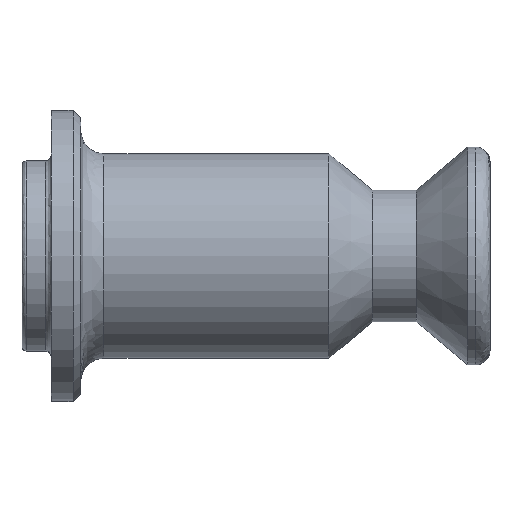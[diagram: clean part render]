
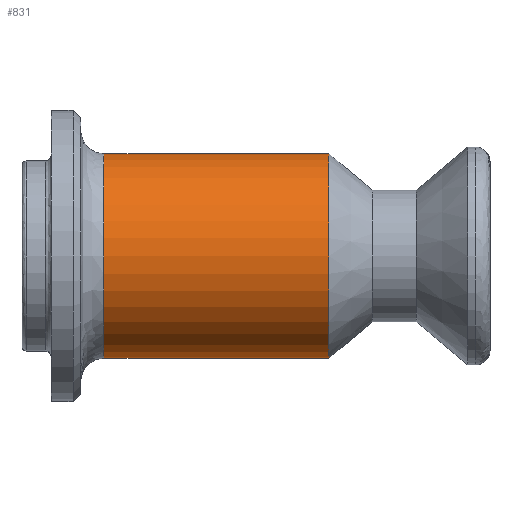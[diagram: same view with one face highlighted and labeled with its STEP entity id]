
A CAD part, left-side view. The second image highlights one B-rep face of the part: STEP entity #831.
In plain terms, the highlighted cylindrical face has radius 3.5 mm (diameter 7 mm), a partial arc.
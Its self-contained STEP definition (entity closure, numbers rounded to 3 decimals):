
#6 = EDGE_CURVE ( 'NONE', #828, #838, #842, .T. ) ;
#21 = EDGE_CURVE ( 'NONE', #230, #828, #1443, .T. ) ;
#83 = CARTESIAN_POINT ( 'NONE',  ( 0., 5.51, 3.5 ) ) ;
#100 = ORIENTED_EDGE ( 'NONE', *, *, #6, .T. ) ;
#168 = CARTESIAN_POINT ( 'NONE',  ( 0., 5.51, -3.5 ) ) ;
#197 = ORIENTED_EDGE ( 'NONE', *, *, #1105, .T. ) ;
#230 = VERTEX_POINT ( 'NONE', #1341 ) ;
#236 = CARTESIAN_POINT ( 'NONE',  ( 0., 0., -3.5 ) ) ;
#285 = CIRCLE ( 'NONE', #333, 3.5 ) ;
#294 = FACE_OUTER_BOUND ( 'NONE', #1509, .T. ) ;
#304 = DIRECTION ( 'NONE',  ( 0., -1., 0. ) ) ;
#333 = AXIS2_PLACEMENT_3D ( 'NONE', #623, #634, #1184 ) ;
#382 = CYLINDRICAL_SURFACE ( 'NONE', #1756, 3.5 ) ;
#566 = DIRECTION ( 'NONE',  ( 0., -1., 0. ) ) ;
#572 = CARTESIAN_POINT ( 'NONE',  ( 0., 13.2, 0. ) ) ;
#623 = CARTESIAN_POINT ( 'NONE',  ( 0., 5.51, 0. ) ) ;
#634 = DIRECTION ( 'NONE',  ( 0., 1., 0. ) ) ;
#747 = CARTESIAN_POINT ( 'NONE',  ( 0., 0., 0. ) ) ;
#828 = VERTEX_POINT ( 'NONE', #836 ) ;
#831 = ADVANCED_FACE ( 'NONE', ( #294 ), #382, .T. ) ;
#836 = CARTESIAN_POINT ( 'NONE',  ( 0., 13.2, -3.5 ) ) ;
#838 = VERTEX_POINT ( 'NONE', #168 ) ;
#842 = LINE ( 'NONE', #236, #1829 ) ;
#857 = DIRECTION ( 'NONE',  ( 0., 0., -1. ) ) ;
#862 = DIRECTION ( 'NONE',  ( 0., -1., 0. ) ) ;
#895 = CARTESIAN_POINT ( 'NONE',  ( 0., 0., 3.5 ) ) ;
#897 = DIRECTION ( 'NONE',  ( 0., -1., 0. ) ) ;
#1105 = EDGE_CURVE ( 'NONE', #838, #1559, #285, .T. ) ;
#1128 = AXIS2_PLACEMENT_3D ( 'NONE', #572, #566, #1154 ) ;
#1154 = DIRECTION ( 'NONE',  ( 0., 0., -1. ) ) ;
#1184 = DIRECTION ( 'NONE',  ( 0., 0., -1. ) ) ;
#1228 = ORIENTED_EDGE ( 'NONE', *, *, #21, .T. ) ;
#1246 = ORIENTED_EDGE ( 'NONE', *, *, #1869, .F. ) ;
#1341 = CARTESIAN_POINT ( 'NONE',  ( 0., 13.2, 3.5 ) ) ;
#1443 = CIRCLE ( 'NONE', #1128, 3.5 ) ;
#1509 = EDGE_LOOP ( 'NONE', ( #1246, #1228, #100, #197 ) ) ;
#1559 = VERTEX_POINT ( 'NONE', #83 ) ;
#1741 = LINE ( 'NONE', #895, #1770 ) ;
#1756 = AXIS2_PLACEMENT_3D ( 'NONE', #747, #862, #857 ) ;
#1770 = VECTOR ( 'NONE', #897, 1000. ) ;
#1829 = VECTOR ( 'NONE', #304, 1000. ) ;
#1869 = EDGE_CURVE ( 'NONE', #230, #1559, #1741, .T. ) ;
